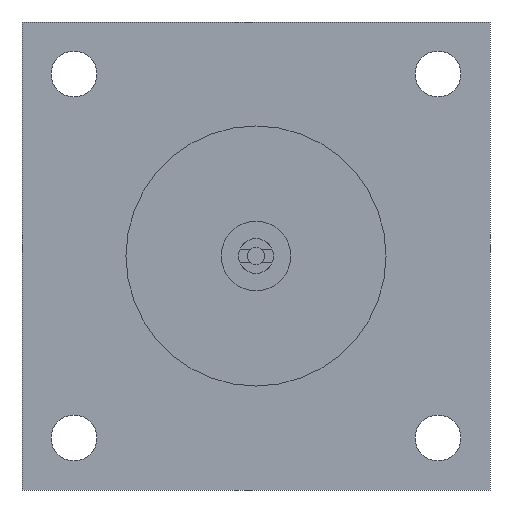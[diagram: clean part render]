
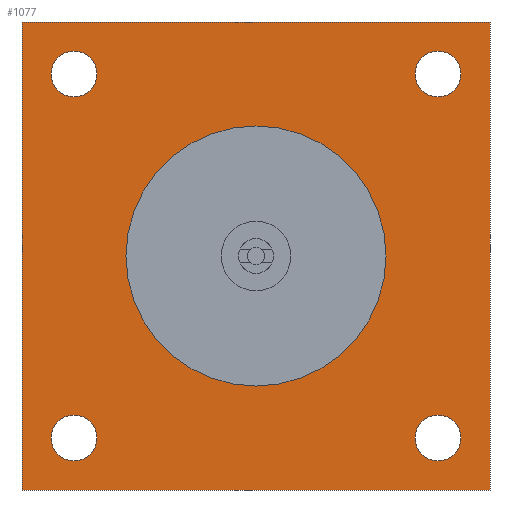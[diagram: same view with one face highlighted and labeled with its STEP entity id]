
A CAD part, left-side view. The second image highlights one B-rep face of the part: STEP entity #1077.
In plain terms, the highlighted planar face has unit normal (-1, 0, 0).
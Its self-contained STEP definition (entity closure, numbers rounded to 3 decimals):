
#7 = EDGE_CURVE ( 'NONE', #706, #1316, #1414, .T. ) ;
#10 = DIRECTION ( 'NONE',  ( 0., 1., 0. ) ) ;
#15 = CARTESIAN_POINT ( 'NONE',  ( -25., -105., -105. ) ) ;
#21 = DIRECTION ( 'NONE',  ( -1., 0., 0. ) ) ;
#27 = DIRECTION ( 'NONE',  ( 0., 0., 1. ) ) ;
#67 = CARTESIAN_POINT ( 'NONE',  ( -25., -135., 135. ) ) ;
#92 = CARTESIAN_POINT ( 'NONE',  ( -25., 0., 0. ) ) ;
#132 = CARTESIAN_POINT ( 'NONE',  ( -25., 135., 135. ) ) ;
#141 = DIRECTION ( 'NONE',  ( 0., 0., 1. ) ) ;
#149 = EDGE_CURVE ( 'NONE', #486, #1213, #749, .T. ) ;
#155 = DIRECTION ( 'NONE',  ( -1., 0., 0. ) ) ;
#157 = EDGE_CURVE ( 'NONE', #657, #1618, #665, .T. ) ;
#171 = EDGE_CURVE ( 'NONE', #1452, #1738, #642, .T. ) ;
#172 = DIRECTION ( 'NONE',  ( 0., 0., -1. ) ) ;
#221 = FACE_BOUND ( 'NONE', #1526, .T. ) ;
#244 = VECTOR ( 'NONE', #372, 1000. ) ;
#247 = DIRECTION ( 'NONE',  ( 0., 0., 1. ) ) ;
#350 = EDGE_CURVE ( 'NONE', #1505, #1366, #1791, .T. ) ;
#363 = EDGE_CURVE ( 'NONE', #1316, #706, #1622, .T. ) ;
#372 = DIRECTION ( 'NONE',  ( 0., 0., 1. ) ) ;
#374 = DIRECTION ( 'NONE',  ( 0., 0., 1. ) ) ;
#380 = ORIENTED_EDGE ( 'NONE', *, *, #350, .F. ) ;
#392 = CARTESIAN_POINT ( 'NONE',  ( -25., -105., 105. ) ) ;
#396 = CARTESIAN_POINT ( 'NONE',  ( -25., -135., 135. ) ) ;
#420 = VECTOR ( 'NONE', #511, 1000. ) ;
#436 = VERTEX_POINT ( 'NONE', #587 ) ;
#449 = DIRECTION ( 'NONE',  ( -1., 0., 0. ) ) ;
#458 = EDGE_CURVE ( 'NONE', #1692, #1156, #1078, .T. ) ;
#460 = AXIS2_PLACEMENT_3D ( 'NONE', #1140, #545, #374 ) ;
#461 = AXIS2_PLACEMENT_3D ( 'NONE', #922, #846, #579 ) ;
#466 = AXIS2_PLACEMENT_3D ( 'NONE', #548, #557, #1044 ) ;
#474 = AXIS2_PLACEMENT_3D ( 'NONE', #1152, #1155, #1168 ) ;
#485 = VECTOR ( 'NONE', #1289, 1000. ) ;
#486 = VERTEX_POINT ( 'NONE', #67 ) ;
#495 = FACE_BOUND ( 'NONE', #1142, .T. ) ;
#511 = DIRECTION ( 'NONE',  ( 0., 0., -1. ) ) ;
#543 = CARTESIAN_POINT ( 'NONE',  ( -25., 135., 135. ) ) ;
#545 = DIRECTION ( 'NONE',  ( -1., 0., 0. ) ) ;
#548 = CARTESIAN_POINT ( 'NONE',  ( -25., 0., 0. ) ) ;
#557 = DIRECTION ( 'NONE',  ( -1., 0., 0. ) ) ;
#558 = LINE ( 'NONE', #1405, #485 ) ;
#572 = CARTESIAN_POINT ( 'NONE',  ( -25., 105., -118.25 ) ) ;
#575 = EDGE_CURVE ( 'NONE', #1366, #1505, #1674, .T. ) ;
#579 = DIRECTION ( 'NONE',  ( 0., 0., 1. ) ) ;
#587 = CARTESIAN_POINT ( 'NONE',  ( -25., 135., -135. ) ) ;
#588 = EDGE_CURVE ( 'NONE', #1618, #657, #1608, .T. ) ;
#636 = EDGE_LOOP ( 'NONE', ( #1359, #1760, #703, #1728 ) ) ;
#642 = CIRCLE ( 'NONE', #662, 13.25 ) ;
#647 = EDGE_CURVE ( 'NONE', #1156, #1692, #826, .T. ) ;
#657 = VERTEX_POINT ( 'NONE', #1145 ) ;
#662 = AXIS2_PLACEMENT_3D ( 'NONE', #392, #1661, #247 ) ;
#665 = CIRCLE ( 'NONE', #697, 13.25 ) ;
#670 = VECTOR ( 'NONE', #10, 1000. ) ;
#695 = EDGE_CURVE ( 'NONE', #436, #792, #558, .T. ) ;
#697 = AXIS2_PLACEMENT_3D ( 'NONE', #856, #449, #141 ) ;
#703 = ORIENTED_EDGE ( 'NONE', *, *, #149, .T. ) ;
#706 = VERTEX_POINT ( 'NONE', #1230 ) ;
#713 = EDGE_LOOP ( 'NONE', ( #1313, #1095 ) ) ;
#749 = LINE ( 'NONE', #132, #670 ) ;
#792 = VERTEX_POINT ( 'NONE', #1389 ) ;
#802 = PLANE ( 'NONE',  #1109 ) ;
#813 = CARTESIAN_POINT ( 'NONE',  ( -25., 105., 105. ) ) ;
#826 = CIRCLE ( 'NONE', #474, 13.25 ) ;
#832 = FACE_BOUND ( 'NONE', #1670, .T. ) ;
#846 = DIRECTION ( 'NONE',  ( -1., 0., 0. ) ) ;
#856 = CARTESIAN_POINT ( 'NONE',  ( -25., 105., -105. ) ) ;
#876 = DIRECTION ( 'NONE',  ( -1., 0., 0. ) ) ;
#881 = CARTESIAN_POINT ( 'NONE',  ( -25., 0., 0. ) ) ;
#896 = AXIS2_PLACEMENT_3D ( 'NONE', #813, #876, #931 ) ;
#917 = DIRECTION ( 'NONE',  ( 1., 0., 0. ) ) ;
#922 = CARTESIAN_POINT ( 'NONE',  ( -25., 105., -105. ) ) ;
#930 = DIRECTION ( 'NONE',  ( 0., 0., -1. ) ) ;
#931 = DIRECTION ( 'NONE',  ( 0., 0., 1. ) ) ;
#953 = EDGE_CURVE ( 'NONE', #792, #486, #1490, .T. ) ;
#989 = EDGE_CURVE ( 'NONE', #1213, #436, #1721, .T. ) ;
#1036 = CARTESIAN_POINT ( 'NONE',  ( -25., -105., -91.75 ) ) ;
#1044 = DIRECTION ( 'NONE',  ( 0., 0., -1. ) ) ;
#1068 = CARTESIAN_POINT ( 'NONE',  ( -25., 135., 135. ) ) ;
#1077 = ADVANCED_FACE ( 'NONE', ( #221, #832, #495, #1371, #1368, #1496 ), #802, .F. ) ;
#1078 = CIRCLE ( 'NONE', #1427, 13.25 ) ;
#1095 = ORIENTED_EDGE ( 'NONE', *, *, #363, .F. ) ;
#1109 = AXIS2_PLACEMENT_3D ( 'NONE', #881, #917, #930 ) ;
#1114 = CIRCLE ( 'NONE', #460, 13.25 ) ;
#1140 = CARTESIAN_POINT ( 'NONE',  ( -25., -105., 105. ) ) ;
#1142 = EDGE_LOOP ( 'NONE', ( #1632, #1681 ) ) ;
#1145 = CARTESIAN_POINT ( 'NONE',  ( -25., 105., -91.75 ) ) ;
#1152 = CARTESIAN_POINT ( 'NONE',  ( -25., -105., -105. ) ) ;
#1155 = DIRECTION ( 'NONE',  ( -1., 0., 0. ) ) ;
#1156 = VERTEX_POINT ( 'NONE', #1036 ) ;
#1168 = DIRECTION ( 'NONE',  ( 0., 0., 1. ) ) ;
#1213 = VERTEX_POINT ( 'NONE', #1068 ) ;
#1223 = CARTESIAN_POINT ( 'NONE',  ( -25., -105., -118.25 ) ) ;
#1230 = CARTESIAN_POINT ( 'NONE',  ( -25., 105., 118.25 ) ) ;
#1289 = DIRECTION ( 'NONE',  ( 0., -1., 0. ) ) ;
#1291 = ORIENTED_EDGE ( 'NONE', *, *, #588, .F. ) ;
#1312 = ORIENTED_EDGE ( 'NONE', *, *, #157, .F. ) ;
#1313 = ORIENTED_EDGE ( 'NONE', *, *, #7, .F. ) ;
#1316 = VERTEX_POINT ( 'NONE', #1355 ) ;
#1355 = CARTESIAN_POINT ( 'NONE',  ( -25., 105., 91.75 ) ) ;
#1359 = ORIENTED_EDGE ( 'NONE', *, *, #695, .T. ) ;
#1366 = VERTEX_POINT ( 'NONE', #1525 ) ;
#1368 = FACE_BOUND ( 'NONE', #1685, .T. ) ;
#1371 = FACE_BOUND ( 'NONE', #713, .T. ) ;
#1389 = CARTESIAN_POINT ( 'NONE',  ( -25., -135., -135. ) ) ;
#1405 = CARTESIAN_POINT ( 'NONE',  ( -25., 135., -135. ) ) ;
#1414 = CIRCLE ( 'NONE', #896, 13.25 ) ;
#1427 = AXIS2_PLACEMENT_3D ( 'NONE', #15, #21, #27 ) ;
#1452 = VERTEX_POINT ( 'NONE', #1598 ) ;
#1490 = LINE ( 'NONE', #396, #244 ) ;
#1495 = AXIS2_PLACEMENT_3D ( 'NONE', #1629, #1617, #1678 ) ;
#1496 = FACE_OUTER_BOUND ( 'NONE', #636, .T. ) ;
#1502 = ORIENTED_EDGE ( 'NONE', *, *, #575, .F. ) ;
#1505 = VERTEX_POINT ( 'NONE', #1737 ) ;
#1514 = AXIS2_PLACEMENT_3D ( 'NONE', #92, #155, #172 ) ;
#1517 = CARTESIAN_POINT ( 'NONE',  ( -25., -105., 118.25 ) ) ;
#1521 = ORIENTED_EDGE ( 'NONE', *, *, #1758, .F. ) ;
#1525 = CARTESIAN_POINT ( 'NONE',  ( -25., 0., 75. ) ) ;
#1526 = EDGE_LOOP ( 'NONE', ( #380, #1502 ) ) ;
#1576 = ORIENTED_EDGE ( 'NONE', *, *, #171, .F. ) ;
#1598 = CARTESIAN_POINT ( 'NONE',  ( -25., -105., 91.75 ) ) ;
#1608 = CIRCLE ( 'NONE', #461, 13.25 ) ;
#1617 = DIRECTION ( 'NONE',  ( -1., 0., 0. ) ) ;
#1618 = VERTEX_POINT ( 'NONE', #572 ) ;
#1622 = CIRCLE ( 'NONE', #1495, 13.25 ) ;
#1629 = CARTESIAN_POINT ( 'NONE',  ( -25., 105., 105. ) ) ;
#1632 = ORIENTED_EDGE ( 'NONE', *, *, #647, .F. ) ;
#1661 = DIRECTION ( 'NONE',  ( -1., 0., 0. ) ) ;
#1670 = EDGE_LOOP ( 'NONE', ( #1521, #1576 ) ) ;
#1674 = CIRCLE ( 'NONE', #466, 75. ) ;
#1678 = DIRECTION ( 'NONE',  ( 0., 0., 1. ) ) ;
#1681 = ORIENTED_EDGE ( 'NONE', *, *, #458, .F. ) ;
#1685 = EDGE_LOOP ( 'NONE', ( #1312, #1291 ) ) ;
#1692 = VERTEX_POINT ( 'NONE', #1223 ) ;
#1721 = LINE ( 'NONE', #543, #420 ) ;
#1728 = ORIENTED_EDGE ( 'NONE', *, *, #989, .T. ) ;
#1737 = CARTESIAN_POINT ( 'NONE',  ( -25., 0., -75. ) ) ;
#1738 = VERTEX_POINT ( 'NONE', #1517 ) ;
#1758 = EDGE_CURVE ( 'NONE', #1738, #1452, #1114, .T. ) ;
#1760 = ORIENTED_EDGE ( 'NONE', *, *, #953, .T. ) ;
#1791 = CIRCLE ( 'NONE', #1514, 75. ) ;
